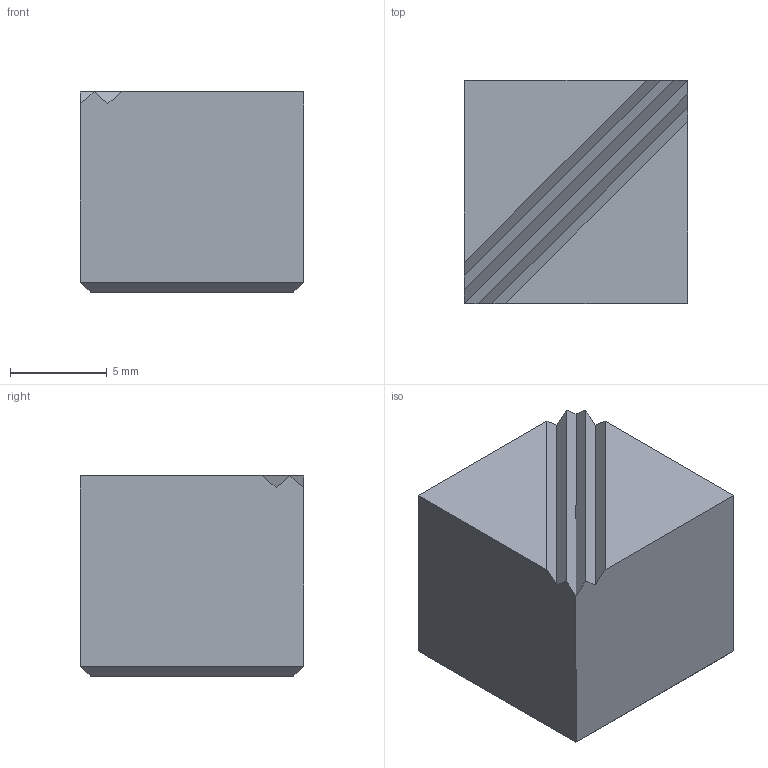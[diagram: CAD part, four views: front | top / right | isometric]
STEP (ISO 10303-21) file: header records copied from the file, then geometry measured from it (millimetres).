
FILE_DESCRIPTION((''),'2;1');
FILE_NAME('3532W007.stp','2001-04-09T10:41:15',(''),(''),'AutoCAD STEP 2000i','AutoCAD 2000i',', , ');
FILE_SCHEMA(('CONFIG_CONTROL_DESIGN'));
Length unit declared in the file: millimetre
Products named in the file (2): 3532F-MDTA; 3532F-MDT
Assembly tree (1 placements, depth 2):
  3532F-MDTA
    3532F-MDT
Bounding box: 11.51 x 11.51 x 10.32 mm (x, y, z)
Volume: 1348.3 mm3; surface area: 748.6 mm2
Topology: 1 solids, 1 shells, 17 faces, 39 edges, 24 vertices
Faces by surface type: plane 17
Entity records: 574 total; most frequent: CARTESIAN_POINT 82, ORIENTED_EDGE 78, DIRECTION 77, VECTOR 39, LINE 39, EDGE_CURVE 39, VERTEX_POINT 24, AXIS2_PLACEMENT_3D 19
